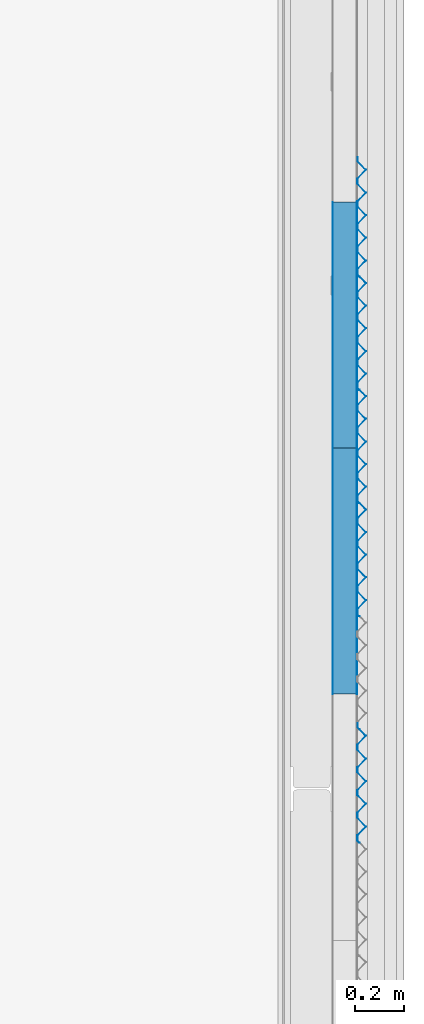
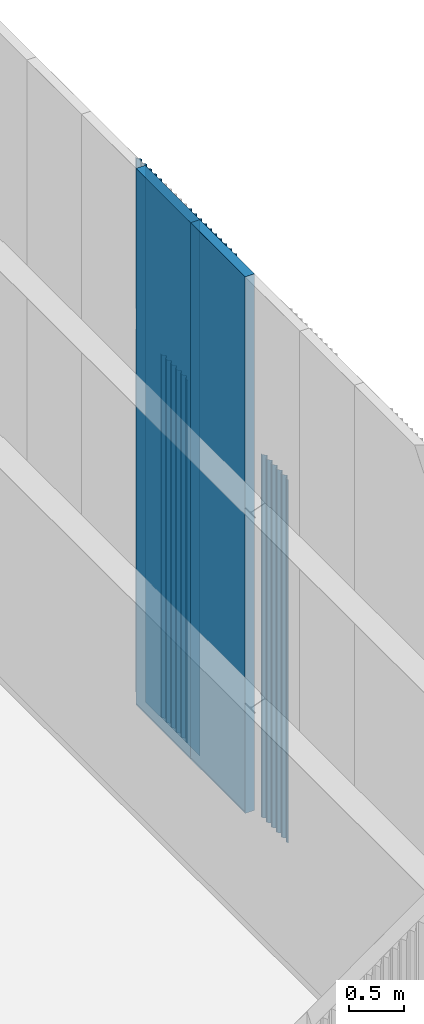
# One storey, part 104 of 338: 12 building element parts, 6 elements without a shape of their own.
"""IFC2X3 building model written with IfcOpenShell, lengths in millimetres."""

from ifc_helpers import new_model, entity, si_unit, converted_unit, derived_unit, money_unit, direction, frame, origin_with_axes, place, context, subcontext, project, spatial, faceted_brep, material, type_object, element, aggregate, save


model = new_model("IFC2X3")

# Units and contexts
model_context = context("Model", 3, precision=0.01, world=origin_with_axes(), true_north=direction((0.0, 1.0)))
plan_context = context("Plan", 3, precision=0.01, world=origin_with_axes(), true_north=direction((0.0, 1.0)))
body_context = subcontext(model_context, "Body", "Model", "MODEL_VIEW")
ifc_project = project(units=[si_unit("LENGTHUNIT", "METRE", prefix="MILLI"), si_unit("AREAUNIT", "SQUARE_METRE"), si_unit("VOLUMEUNIT", "CUBIC_METRE"), converted_unit("PLANEANGLEUNIT", "DEGREE", entity("IfcPlaneAngleMeasure", 0.0174532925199), si_unit("PLANEANGLEUNIT", "RADIAN"), dimensions=[0, 0, 0, 0, 0, 0, 0]), money_unit("EUR"), converted_unit("TIMEUNIT", "Year", entity("IfcTimeMeasure", 31556926.0), si_unit("TIMEUNIT", "SECOND"), dimensions=[0, 0, 1, 0, 0, 0, 0]), si_unit("MASSUNIT", "GRAM", prefix="KILO"), si_unit("THERMODYNAMICTEMPERATUREUNIT", "DEGREE_CELSIUS"), si_unit("LUMINOUSINTENSITYUNIT", "LUMEN"), si_unit("ENERGYUNIT", "JOULE", prefix="MEGA"), derived_unit("THERMALCONDUCTANCEUNIT", [(si_unit("POWERUNIT", "WATT"), 1), (si_unit("LENGTHUNIT", "METRE"), -1), (si_unit("THERMODYNAMICTEMPERATUREUNIT", "KELVIN"), -1)]), derived_unit("SPECIFICHEATCAPACITYUNIT", [(si_unit("ENERGYUNIT", "JOULE"), 1), (si_unit("MASSUNIT", "GRAM", prefix="KILO"), -1), (si_unit("THERMODYNAMICTEMPERATUREUNIT", "KELVIN"), -1)]), derived_unit("MASSDENSITYUNIT", [(si_unit("MASSUNIT", "GRAM", prefix="KILO"), 1), (si_unit("VOLUMEUNIT", "CUBIC_METRE"), -1)])], contexts=[model_context, plan_context])

# Site, building, storey
site_placement = place(None, origin_with_axes())
site = spatial("IfcSite", under=ifc_project, at=site_placement, Name="Fortuinstraat Woensdrecht", CompositionType="ELEMENT")
building_placement = place(site_placement, origin_with_axes())
building = spatial("IfcBuilding", under=site, at=building_placement, Name="IKC Fortuna", CompositionType="ELEMENT")
storey_placement = place(building_placement, origin_with_axes())
storey = spatial("IfcBuildingStorey", under=building, at=storey_placement, Name="00 begane grond", CompositionType="ELEMENT", Elevation=0.0)

# Wall, building element parts
wall_type = type_object("IfcWallType", Name="21 sandwich 100", PredefinedType="NOTDEFINED")
wall_1_placement = place(storey_placement, frame((59433.4270571, 28181.3126832, 1000.0), z_axis=(0.0, 0.0, 1.0), x_axis=(0.0, -1.0, 0.0)))
wall_1 = element("IfcWall", 1, at=wall_1_placement, inside=storey, type_object=wall_type, Name="21_Wand_sandwichplaat")
ifc_material_1 = material(Name="Metaal - Aluminium")
building_element_part_1_placement = place(wall_1_placement, origin_with_axes())
building_element_part_1 = element("IfcBuildingElementPart", 2, at=building_element_part_1_placement, material=ifc_material_1, Name="Metaal - Aluminium", context=body_context, shape_type="Brep", body=[
    faceted_brep([(0.0, 99.0, 6000.0), (1000.0, 99.0, 6000.0), (1000.0, 100.0, 6000.0), (0.0, 100.0, 6000.0), (0.0, 99.0, 0.0), (1000.0, 99.0, 0.0), (1000.0, 100.0, 0.0), (0.0, 100.0, 0.0)], [[[0, 1, 2, 3]], [[4, 5, 1, 0]], [[2, 1, 5, 6]], [[3, 2, 6, 7]], [[4, 0, 3, 7]], [[7, 6, 5, 4]]]),
])
ifc_material_2 = material(Name="Isolatie - Kunststof hard")
building_element_part_2_placement = place(wall_1_placement, origin_with_axes())
building_element_part_2 = element("IfcBuildingElementPart", 3, at=building_element_part_2_placement, material=ifc_material_2, Name="Isolatie - Kunststof hard", context=body_context, shape_type="Brep", body=[
    faceted_brep([(1000.0, 0.999999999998, 6000.0), (1000.0, 99.0, 6000.0), (0.0, 99.0, 6000.0), (0.0, 0.999999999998, 6000.0), (1000.0, 0.999999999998, 0.0), (1000.0, 99.0, 0.0), (0.0, 99.0, 0.0), (0.0, 0.999999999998, 0.0)], [[[0, 1, 2, 3]], [[0, 4, 5, 1]], [[1, 5, 6, 2]], [[3, 2, 6, 7]], [[4, 0, 3, 7]], [[5, 4, 7, 6]]]),
])
building_element_part_3_placement = place(wall_1_placement, origin_with_axes())
building_element_part_3 = element("IfcBuildingElementPart", 4, at=building_element_part_3_placement, material=ifc_material_1, Name="Metaal - Aluminium", context=body_context, shape_type="Brep", body=[
    faceted_brep([(1000.0, 0.0, 6000.0), (0.0, 0.0, 6000.0), (0.0, 7.91899879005e-08, 18.9263474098), (1000.0, 7.65751906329e-08, 18.9263474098), (1000.0, 0.999999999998, 6000.0), (0.0, 0.999999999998, 6000.0), (0.0, 0.999999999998, 18.9261694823), (1000.0, 0.999999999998, 18.9261694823)], [[[0, 1, 2, 3]], [[1, 0, 4, 5]], [[2, 1, 5, 6]], [[3, 2, 6, 7]], [[0, 3, 7, 4]], [[5, 4, 7, 6]]]),
])
aggregate(wall_1, [building_element_part_1, building_element_part_2, building_element_part_3])

wall_2_placement = place(storey_placement, frame((59433.4270571, 27181.3126832, 1000.0), z_axis=(0.0, 0.0, 1.0), x_axis=(0.0, -1.0, 0.0)))
wall_2 = element("IfcWall", 5, at=wall_2_placement, inside=storey, type_object=wall_type, Name="21_Wand_sandwichplaat")
building_element_part_4_placement = place(wall_2_placement, origin_with_axes())
building_element_part_4 = element("IfcBuildingElementPart", 6, at=building_element_part_4_placement, material=ifc_material_1, Name="Metaal - Aluminium", context=body_context, shape_type="Brep", body=[
    faceted_brep([(0.0, 99.0, 5999.99999804), (1000.0, 99.0, 5999.99999804), (1000.0, 100.0, 5999.99999804), (0.0, 100.0, 5999.99999804), (0.0, 99.0, 0.0), (1000.0, 99.0, 0.0), (1000.0, 100.0, 0.0), (0.0, 100.0, 0.0)], [[[0, 1, 2, 3]], [[4, 5, 1, 0]], [[2, 1, 5, 6]], [[3, 2, 6, 7]], [[4, 0, 3, 7]], [[7, 6, 5, 4]]]),
])
building_element_part_5_placement = place(wall_2_placement, origin_with_axes())
building_element_part_5 = element("IfcBuildingElementPart", 7, at=building_element_part_5_placement, material=ifc_material_2, Name="Isolatie - Kunststof hard", context=body_context, shape_type="Brep", body=[
    faceted_brep([(1000.0, 0.999999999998, 5999.99999804), (1000.0, 99.0, 5999.99999804), (0.0, 99.0, 5999.99999804), (0.0, 0.999999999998, 5999.99999804), (1000.0, 0.999999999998, 0.0), (1000.0, 99.0, 0.0), (0.0, 99.0, 0.0), (0.0, 0.999999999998, 0.0)], [[[0, 1, 2, 3]], [[0, 4, 5, 1]], [[1, 5, 6, 2]], [[3, 2, 6, 7]], [[4, 0, 3, 7]], [[5, 4, 7, 6]]]),
])
building_element_part_6_placement = place(wall_2_placement, origin_with_axes())
building_element_part_6 = element("IfcBuildingElementPart", 8, at=building_element_part_6_placement, material=ifc_material_1, Name="Metaal - Aluminium", context=body_context, shape_type="Brep", body=[
    faceted_brep([(1000.0, 0.0, 5999.99999804), (0.0, 0.0, 5999.99999804), (0.0, 7.65680852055e-08, 18.9263474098), (1000.0, 7.39461825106e-08, 18.9263474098), (1000.0, 0.999999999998, 5999.99999804), (0.0, 0.999999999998, 5999.99999804), (0.0, 0.999999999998, 18.9261694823), (1000.0, 0.999999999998, 18.9261694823)], [[[0, 1, 2, 3]], [[1, 0, 4, 5]], [[2, 1, 5, 6]], [[3, 2, 6, 7]], [[0, 3, 7, 4]], [[5, 4, 7, 6]]]),
])
aggregate(wall_2, [building_element_part_4, building_element_part_5, building_element_part_6])

# Proxy, building element parts
building_element_proxy_type = type_object("IfcBuildingElementProxyType", Name="21 Sandwich custom pyramid 946 x 37", PredefinedType="NOTDEFINED")
proxy_1_placement = place(storey_placement, frame((59533.4270571, 28363.6060069, 1000.0), z_axis=(0.0, 0.0, 1.0), x_axis=(0.0, -1.0, 0.0)))
proxy_1 = element("IfcBuildingElementProxy", 9, at=proxy_1_placement, inside=storey, type_object=building_element_proxy_type, Name="41_Generieke bekleding & afwerking buiten_sandwich custom pyramid")
building_element_part_7_placement = place(proxy_1_placement, origin_with_axes())
building_element_part_7 = element("IfcBuildingElementPart", 10, at=building_element_part_7_placement, material=ifc_material_1, Name="Metaal - Aluminium", context=body_context, shape_type="Brep", body=[
    faceted_brep([(0.0, 2.39999686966, 0.0), (0.0, 1.20000548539, 0.0), (0.0, 1.20000548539, 4060.85690076), (0.0, 2.39999686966, 4060.85690076), (16.7470988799, 2.39999686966, 0.0), (52.0000026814, 36.6736482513, 0.0), (88.487191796, 1.20000548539, 0.0), (107.51282048, 1.20000548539, 0.0), (143.999995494, 36.6736482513, 0.0), (180.487184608, 1.20000548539, 0.0), (199.512813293, 1.20000548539, 0.0), (236.000002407, 36.6736482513, 0.0), (272.487191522, 1.20000548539, 0.0), (291.512820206, 1.20000548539, 0.0), (327.99999522, 36.6736482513, 0.0), (364.487184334, 1.20000548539, 0.0), (383.512813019, 1.20000548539, 0.0), (420.000002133, 36.6736482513, 0.0), (456.487191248, 1.20000548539, 0.0), (460.000006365, 1.20000548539, 0.0), (477.23428491, 1.20000548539, 0.0), (485.472879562, 9.20975302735, 0.0), (486.309372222, 8.34935896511, 0.0), (477.721464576, 0.0, 0.0), (455.999997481, 0.0, 0.0), (420.000002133, 35.0000001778, 0.0), (384.000006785, 0.0, 0.0), (364.000004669, 0.0, 0.0), (327.99999522, 35.0000001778, 0.0), (291.999999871, 0.0, 0.0), (271.999997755, 0.0, 0.0), (236.000002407, 35.0000001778, 0.0), (199.999992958, 0.0, 0.0), (180.000004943, 0.0, 0.0), (143.999995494, 35.0000001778, 0.0), (108.000000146, 0.0, 0.0), (87.9999980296, 0.0, 0.0), (52.0000026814, 35.0000001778, 0.0), (17.2342926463, 1.20000548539, 0.0), (17.2342926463, 1.20000548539, 4060.85690076), (52.0000026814, 35.0000001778, 4060.85690076), (87.9999980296, 0.0, 4060.85690076), (108.000000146, 0.0, 4060.85690076), (143.999995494, 35.0000001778, 4060.85690076), (180.000004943, 0.0, 4060.85690076), (199.999992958, 0.0, 4060.85690076), (236.000002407, 35.0000001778, 4060.85690076), (271.999997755, 0.0, 4060.85690076), (291.999999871, 0.0, 4060.85690076), (327.99999522, 35.0000001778, 4060.85690076), (364.000004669, 0.0, 4060.85690076), (384.000006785, 0.0, 4060.85690076), (420.000002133, 35.0000001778, 4060.85690076), (455.999997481, 0.0, 4060.85690076), (477.721464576, 0.0, 4060.85690076), (486.309372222, 8.34935896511, 4060.85690076), (485.472879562, 9.20975302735, 4060.85690076), (477.23428491, 1.20000548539, 4060.85690076), (460.000006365, 1.20000548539, 4060.85690076), (456.487191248, 1.20000548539, 4060.85690076), (420.000002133, 36.6736482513, 4060.85690076), (383.512813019, 1.20000548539, 4060.85690076), (364.487184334, 1.20000548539, 4060.85690076), (327.99999522, 36.6736482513, 4060.85690076), (291.512820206, 1.20000548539, 4060.85690076), (272.487191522, 1.20000548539, 4060.85690076), (236.000002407, 36.6736482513, 4060.85690076), (199.512813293, 1.20000548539, 4060.85690076), (180.487184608, 1.20000548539, 4060.85690076), (143.999995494, 36.6736482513, 4060.85690076), (107.51282048, 1.20000548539, 4060.85690076), (88.487191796, 1.20000548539, 4060.85690076), (52.0000026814, 36.6736482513, 4060.85690076), (16.7470988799, 2.39999686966, 4060.85690076)], [[[0, 1, 2, 3]], [[0, 4, 5, 6, 7, 8, 9, 10, 11, 12, 13, 14, 15, 16, 17, 18, 19, 20, 21, 22, 23, 24, 25, 26, 27, 28, 29, 30, 31, 32, 33, 34, 35, 36, 37, 38, 1]], [[1, 38, 39, 2]], [[3, 2, 39, 40, 41, 42, 43, 44, 45, 46, 47, 48, 49, 50, 51, 52, 53, 54, 55, 56, 57, 58, 59, 60, 61, 62, 63, 64, 65, 66, 67, 68, 69, 70, 71, 72, 73]], [[4, 0, 3, 73]], [[5, 4, 73, 72]], [[6, 5, 72, 71]], [[7, 6, 71, 70]], [[8, 7, 70, 69]], [[9, 8, 69, 68]], [[10, 9, 68, 67]], [[11, 10, 67, 66]], [[12, 11, 66, 65]], [[13, 12, 65, 64]], [[14, 13, 64, 63]], [[15, 14, 63, 62]], [[16, 15, 62, 61]], [[17, 16, 61, 60]], [[18, 17, 60, 59]], [[19, 18, 59, 58]], [[20, 19, 58, 57]], [[21, 20, 57, 56]], [[22, 21, 56, 55]], [[23, 22, 55, 54]], [[24, 23, 54, 53]], [[25, 24, 53, 52]], [[26, 25, 52, 51]], [[27, 26, 51, 50]], [[28, 27, 50, 49]], [[29, 28, 49, 48]], [[30, 29, 48, 47]], [[31, 30, 47, 46]], [[32, 31, 46, 45]], [[33, 32, 45, 44]], [[34, 33, 44, 43]], [[35, 34, 43, 42]], [[36, 35, 42, 41]], [[37, 36, 41, 40]], [[38, 37, 40, 39]]]),
])
building_element_part_8_placement = place(proxy_1_placement, origin_with_axes())
building_element_part_8 = element("IfcBuildingElementPart", 11, at=building_element_part_8_placement, material=ifc_material_1, Name="Metaal - Aluminium", context=body_context, shape_type="Brep", body=[
    faceted_brep([(460.0, 1.2, 0.0), (477.234285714, 1.2, 0.0), (477.234285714, 1.2, 4060.85690076), (460.0, 1.2, 4060.85690076), (460.0, 2.4, 0.0), (476.747100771, 2.4, 0.0), (512.0, 36.6736520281, 0.0), (548.487184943, 1.2, 0.0), (567.512815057, 1.2, 0.0), (604.0, 36.6736520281, 0.0), (640.487184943, 1.2, 0.0), (659.512815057, 1.2, 0.0), (696.0, 36.6736520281, 0.0), (732.487184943, 1.2, 0.0), (751.512815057, 1.2, 0.0), (788.0, 36.6736520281, 0.0), (824.487184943, 1.2, 0.0), (843.512815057, 1.2, 0.0), (880.0, 36.6736520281, 0.0), (916.487184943, 1.2, 0.0), (937.234285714, 1.2, 0.0), (945.472884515, 9.20974883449, 0.0), (946.309378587, 8.34935493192, 0.0), (937.721470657, 0.0, 0.0), (916.0, 0.0, 0.0), (880.0, 35.0, 0.0), (844.0, 0.0, 0.0), (824.0, 0.0, 0.0), (788.0, 35.0, 0.0), (752.0, 0.0, 0.0), (732.0, 0.0, 0.0), (696.0, 35.0, 0.0), (660.0, 0.0, 0.0), (640.0, 0.0, 0.0), (604.0, 35.0, 0.0), (568.0, 0.0, 0.0), (548.0, 0.0, 0.0), (512.0, 35.0, 0.0), (485.472879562, 9.20975302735, 0.0), (485.472879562, 9.20975302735, 4060.85690076), (512.0, 35.0, 4060.85690076), (548.0, 0.0, 4060.85690076), (568.0, 0.0, 4060.85690076), (604.0, 35.0, 4060.85690076), (640.0, 0.0, 4060.85690076), (660.0, 0.0, 4060.85690076), (696.0, 35.0, 4060.85690076), (732.0, 0.0, 4060.85690076), (752.0, 0.0, 4060.85690076), (788.0, 35.0, 4060.85690076), (824.0, 0.0, 4060.85690076), (844.0, 0.0, 4060.85690076), (880.0, 35.0, 4060.85690076), (916.0, 0.0, 4060.85690076), (937.721470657, 0.0, 4060.85690076), (946.309378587, 8.34935493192, 4060.85690076), (945.472884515, 9.20974883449, 4060.85690076), (937.234285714, 1.2, 4060.85690076), (916.487184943, 1.2, 4060.85690076), (880.0, 36.6736520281, 4060.85690076), (843.512815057, 1.2, 4060.85690076), (824.487184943, 1.2, 4060.85690076), (788.0, 36.6736520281, 4060.85690076), (751.512815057, 1.2, 4060.85690076), (732.487184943, 1.2, 4060.85690076), (696.0, 36.6736520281, 4060.85690076), (659.512815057, 1.2, 4060.85690076), (640.487184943, 1.2, 4060.85690076), (604.0, 36.6736520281, 4060.85690076), (567.512815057, 1.2, 4060.85690076), (548.487184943, 1.2, 4060.85690076), (512.0, 36.6736520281, 4060.85690076), (476.747100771, 2.4, 4060.85690076), (460.0, 2.4, 4060.85690076)], [[[0, 1, 2, 3]], [[0, 4, 5, 6, 7, 8, 9, 10, 11, 12, 13, 14, 15, 16, 17, 18, 19, 20, 21, 22, 23, 24, 25, 26, 27, 28, 29, 30, 31, 32, 33, 34, 35, 36, 37, 38, 1]], [[1, 38, 39, 2]], [[3, 2, 39, 40, 41, 42, 43, 44, 45, 46, 47, 48, 49, 50, 51, 52, 53, 54, 55, 56, 57, 58, 59, 60, 61, 62, 63, 64, 65, 66, 67, 68, 69, 70, 71, 72, 73]], [[4, 0, 3, 73]], [[5, 4, 73, 72]], [[6, 5, 72, 71]], [[7, 6, 71, 70]], [[8, 7, 70, 69]], [[9, 8, 69, 68]], [[10, 9, 68, 67]], [[11, 10, 67, 66]], [[12, 11, 66, 65]], [[13, 12, 65, 64]], [[14, 13, 64, 63]], [[15, 14, 63, 62]], [[16, 15, 62, 61]], [[17, 16, 61, 60]], [[18, 17, 60, 59]], [[19, 18, 59, 58]], [[20, 19, 58, 57]], [[21, 20, 57, 56]], [[22, 21, 56, 55]], [[23, 22, 55, 54]], [[24, 23, 54, 53]], [[25, 24, 53, 52]], [[26, 25, 52, 51]], [[27, 26, 51, 50]], [[28, 27, 50, 49]], [[29, 28, 49, 48]], [[30, 29, 48, 47]], [[31, 30, 47, 46]], [[32, 31, 46, 45]], [[33, 32, 45, 44]], [[34, 33, 44, 43]], [[35, 34, 43, 42]], [[36, 35, 42, 41]], [[37, 36, 41, 40]], [[38, 37, 40, 39]]]),
])
aggregate(proxy_1, [building_element_part_7, building_element_part_8])

# Proxy, building element part
proxy_2_placement = place(storey_placement, frame((59533.4270571, 26523.6060069, 1000.0), z_axis=(0.0, 0.0, 1.0), x_axis=(0.0, -1.0, 0.0)))
proxy_2 = element("IfcBuildingElementProxy", 12, at=proxy_2_placement, inside=storey, type_object=building_element_proxy_type, Name="41_Generieke bekleding & afwerking buiten_sandwich custom pyramid")
building_element_part_9_placement = place(proxy_2_placement, origin_with_axes())
building_element_part_9 = element("IfcBuildingElementPart", 13, at=building_element_part_9_placement, material=ifc_material_1, Name="Metaal - Aluminium", context=body_context, shape_type="Brep", body=[
    faceted_brep([(460.0, 1.2, 0.0), (477.234285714, 1.2, 0.0), (477.234285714, 1.2, 4060.85690076), (460.0, 1.2, 4060.85690076), (460.0, 2.4, 0.0), (476.747100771, 2.4, 0.0), (512.0, 36.6736520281, 0.0), (548.487184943, 1.2, 0.0), (567.512815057, 1.2, 0.0), (604.0, 36.6736520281, 0.0), (640.487184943, 1.2, 0.0), (659.512815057, 1.2, 0.0), (696.0, 36.6736520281, 0.0), (732.487184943, 1.2, 0.0), (751.512815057, 1.2, 0.0), (788.0, 36.6736520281, 0.0), (824.487184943, 1.2, 0.0), (843.512815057, 1.2, 0.0), (880.0, 36.6736520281, 0.0), (916.487184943, 1.2, 0.0), (937.234285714, 1.2, 0.0), (945.472884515, 9.20974883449, 0.0), (946.309378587, 8.34935493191, 0.0), (937.721470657, 0.0, 0.0), (916.0, 0.0, 0.0), (880.0, 35.0, 0.0), (844.0, 0.0, 0.0), (824.0, 0.0, 0.0), (788.0, 35.0, 0.0), (752.0, 0.0, 0.0), (732.0, 0.0, 0.0), (696.0, 35.0, 0.0), (660.0, 0.0, 0.0), (640.0, 0.0, 0.0), (604.0, 35.0, 0.0), (568.0, 0.0, 0.0), (548.0, 0.0, 0.0), (512.0, 35.0, 0.0), (485.472879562, 9.20975302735, 0.0), (485.472879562, 9.20975302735, 4060.85690076), (512.0, 35.0, 4060.85690076), (548.0, 0.0, 4060.85690076), (568.0, 0.0, 4060.85690076), (604.0, 35.0, 4060.85690076), (640.0, 0.0, 4060.85690076), (660.0, 0.0, 4060.85690076), (696.0, 35.0, 4060.85690076), (732.0, 0.0, 4060.85690076), (752.0, 0.0, 4060.85690076), (788.0, 35.0, 4060.85690076), (824.0, 0.0, 4060.85690076), (844.0, 0.0, 4060.85690076), (880.0, 35.0, 4060.85690076), (916.0, 0.0, 4060.85690076), (937.721470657, 0.0, 4060.85690076), (946.309378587, 8.34935493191, 4060.85690076), (945.472884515, 9.20974883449, 4060.85690076), (937.234285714, 1.2, 4060.85690076), (916.487184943, 1.2, 4060.85690076), (880.0, 36.6736520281, 4060.85690076), (843.512815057, 1.2, 4060.85690076), (824.487184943, 1.2, 4060.85690076), (788.0, 36.6736520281, 4060.85690076), (751.512815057, 1.2, 4060.85690076), (732.487184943, 1.2, 4060.85690076), (696.0, 36.6736520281, 4060.85690076), (659.512815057, 1.2, 4060.85690076), (640.487184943, 1.2, 4060.85690076), (604.0, 36.6736520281, 4060.85690076), (567.512815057, 1.2, 4060.85690076), (548.487184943, 1.2, 4060.85690076), (512.0, 36.6736520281, 4060.85690076), (476.747100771, 2.4, 4060.85690076), (460.0, 2.4, 4060.85690076)], [[[0, 1, 2, 3]], [[0, 4, 5, 6, 7, 8, 9, 10, 11, 12, 13, 14, 15, 16, 17, 18, 19, 20, 21, 22, 23, 24, 25, 26, 27, 28, 29, 30, 31, 32, 33, 34, 35, 36, 37, 38, 1]], [[1, 38, 39, 2]], [[3, 2, 39, 40, 41, 42, 43, 44, 45, 46, 47, 48, 49, 50, 51, 52, 53, 54, 55, 56, 57, 58, 59, 60, 61, 62, 63, 64, 65, 66, 67, 68, 69, 70, 71, 72, 73]], [[4, 0, 3, 73]], [[5, 4, 73, 72]], [[6, 5, 72, 71]], [[7, 6, 71, 70]], [[8, 7, 70, 69]], [[9, 8, 69, 68]], [[10, 9, 68, 67]], [[11, 10, 67, 66]], [[12, 11, 66, 65]], [[13, 12, 65, 64]], [[14, 13, 64, 63]], [[15, 14, 63, 62]], [[16, 15, 62, 61]], [[17, 16, 61, 60]], [[18, 17, 60, 59]], [[19, 18, 59, 58]], [[20, 19, 58, 57]], [[21, 20, 57, 56]], [[22, 21, 56, 55]], [[23, 22, 55, 54]], [[24, 23, 54, 53]], [[25, 24, 53, 52]], [[26, 25, 52, 51]], [[27, 26, 51, 50]], [[28, 27, 50, 49]], [[29, 28, 49, 48]], [[30, 29, 48, 47]], [[31, 30, 47, 46]], [[32, 31, 46, 45]], [[33, 32, 45, 44]], [[34, 33, 44, 43]], [[35, 34, 43, 42]], [[36, 35, 42, 41]], [[37, 36, 41, 40]], [[38, 37, 40, 39]]]),
])
aggregate(proxy_2, [building_element_part_9])

proxy_3_placement = place(storey_placement, frame((59533.4270571, 28363.6060069, 5289.99999237), z_axis=(0.0, 0.0, 1.0), x_axis=(0.0, -1.0, 0.0)))
proxy_3 = element("IfcBuildingElementProxy", 14, at=proxy_3_placement, inside=storey, type_object=building_element_proxy_type, Name="41_Generieke bekleding & afwerking buiten_sandwich custom pyramid")
building_element_part_10_placement = place(proxy_3_placement, origin_with_axes())
building_element_part_10 = element("IfcBuildingElementPart", 15, at=building_element_part_10_placement, material=ifc_material_1, Name="Metaal - Aluminium", context=body_context, shape_type="Brep", body=[
    faceted_brep([(0.0, 2.39999686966, 0.0), (0.0, 1.20000548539, 0.0), (0.0, 1.20000548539, 1690.00000566), (0.0, 2.39999686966, 1690.00000566), (16.7470988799, 2.39999686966, 0.0), (52.0000026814, 36.6736482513, 0.0), (88.487191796, 1.20000548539, 0.0), (107.51282048, 1.20000548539, 0.0), (143.999995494, 36.6736482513, 0.0), (180.487184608, 1.20000548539, 0.0), (199.512813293, 1.20000548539, 0.0), (236.000002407, 36.6736482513, 0.0), (272.487191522, 1.20000548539, 0.0), (291.512820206, 1.20000548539, 0.0), (327.99999522, 36.6736482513, 0.0), (364.487184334, 1.20000548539, 0.0), (383.512813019, 1.20000548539, 0.0), (420.000002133, 36.6736482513, 0.0), (456.487191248, 1.20000548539, 0.0), (460.000006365, 1.20000548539, 0.0), (477.23428491, 1.20000548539, 0.0), (485.472879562, 9.20975302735, 0.0), (486.309372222, 8.34935896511, 0.0), (477.721464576, 0.0, 0.0), (455.999997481, 0.0, 0.0), (420.000002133, 35.0000001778, 0.0), (384.000006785, 0.0, 0.0), (364.000004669, 0.0, 0.0), (327.99999522, 35.0000001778, 0.0), (291.999999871, 0.0, 0.0), (271.999997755, 0.0, 0.0), (236.000002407, 35.0000001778, 0.0), (199.999992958, 0.0, 0.0), (180.000004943, 0.0, 0.0), (143.999995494, 35.0000001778, 0.0), (108.000000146, 0.0, 0.0), (87.9999980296, 0.0, 0.0), (52.0000026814, 35.0000001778, 0.0), (17.2342926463, 1.20000548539, 0.0), (17.2342926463, 1.20000548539, 1690.00000566), (52.0000026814, 35.0000001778, 1690.00000566), (87.9999980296, 0.0, 1690.00000566), (108.000000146, 0.0, 1690.00000566), (143.999995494, 35.0000001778, 1690.00000566), (180.000004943, 0.0, 1690.00000566), (199.999992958, 0.0, 1690.00000566), (236.000002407, 35.0000001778, 1690.00000566), (271.999997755, 0.0, 1690.00000566), (291.999999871, 0.0, 1690.00000566), (327.99999522, 35.0000001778, 1690.00000566), (364.000004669, 0.0, 1690.00000566), (384.000006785, 0.0, 1690.00000566), (420.000002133, 35.0000001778, 1690.00000566), (455.999997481, 0.0, 1690.00000566), (477.721464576, 0.0, 1690.00000566), (486.309372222, 8.34935896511, 1690.00000566), (485.472879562, 9.20975302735, 1690.00000566), (477.23428491, 1.20000548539, 1690.00000566), (460.000006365, 1.20000548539, 1690.00000566), (456.487191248, 1.20000548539, 1690.00000566), (420.000002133, 36.6736482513, 1690.00000566), (383.512813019, 1.20000548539, 1690.00000566), (364.487184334, 1.20000548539, 1690.00000566), (327.99999522, 36.6736482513, 1690.00000566), (291.512820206, 1.20000548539, 1690.00000566), (272.487191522, 1.20000548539, 1690.00000566), (236.000002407, 36.6736482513, 1690.00000566), (199.512813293, 1.20000548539, 1690.00000566), (180.487184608, 1.20000548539, 1690.00000566), (143.999995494, 36.6736482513, 1690.00000566), (107.51282048, 1.20000548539, 1690.00000566), (88.487191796, 1.20000548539, 1690.00000566), (52.0000026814, 36.6736482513, 1690.00000566), (16.7470988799, 2.39999686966, 1690.00000566)], [[[0, 1, 2, 3]], [[0, 4, 5, 6, 7, 8, 9, 10, 11, 12, 13, 14, 15, 16, 17, 18, 19, 20, 21, 22, 23, 24, 25, 26, 27, 28, 29, 30, 31, 32, 33, 34, 35, 36, 37, 38, 1]], [[1, 38, 39, 2]], [[3, 2, 39, 40, 41, 42, 43, 44, 45, 46, 47, 48, 49, 50, 51, 52, 53, 54, 55, 56, 57, 58, 59, 60, 61, 62, 63, 64, 65, 66, 67, 68, 69, 70, 71, 72, 73]], [[4, 0, 3, 73]], [[5, 4, 73, 72]], [[6, 5, 72, 71]], [[7, 6, 71, 70]], [[8, 7, 70, 69]], [[9, 8, 69, 68]], [[10, 9, 68, 67]], [[11, 10, 67, 66]], [[12, 11, 66, 65]], [[13, 12, 65, 64]], [[14, 13, 64, 63]], [[15, 14, 63, 62]], [[16, 15, 62, 61]], [[17, 16, 61, 60]], [[18, 17, 60, 59]], [[19, 18, 59, 58]], [[20, 19, 58, 57]], [[21, 20, 57, 56]], [[22, 21, 56, 55]], [[23, 22, 55, 54]], [[24, 23, 54, 53]], [[25, 24, 53, 52]], [[26, 25, 52, 51]], [[27, 26, 51, 50]], [[28, 27, 50, 49]], [[29, 28, 49, 48]], [[30, 29, 48, 47]], [[31, 30, 47, 46]], [[32, 31, 46, 45]], [[33, 32, 45, 44]], [[34, 33, 44, 43]], [[35, 34, 43, 42]], [[36, 35, 42, 41]], [[37, 36, 41, 40]], [[38, 37, 40, 39]]]),
])
aggregate(proxy_3, [building_element_part_10])

# Proxy, building element parts
proxy_4_placement = place(storey_placement, frame((59533.4270571, 27443.6060069, 5289.99999237), z_axis=(0.0, 0.0, 1.0), x_axis=(0.0, -1.0, 0.0)))
proxy_4 = element("IfcBuildingElementProxy", 16, at=proxy_4_placement, inside=storey, type_object=building_element_proxy_type, Name="41_Generieke bekleding & afwerking buiten_sandwich custom pyramid")
building_element_part_11_placement = place(proxy_4_placement, origin_with_axes())
building_element_part_11 = element("IfcBuildingElementPart", 17, at=building_element_part_11_placement, material=ifc_material_1, Name="Metaal - Aluminium", context=body_context, shape_type="Brep", body=[
    faceted_brep([(0.0, 2.39999686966, 0.0), (0.0, 1.20000548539, 0.0), (0.0, 1.20000548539, 1690.00000566), (0.0, 2.39999686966, 1690.00000566), (16.7470988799, 2.39999686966, 0.0), (52.0000026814, 36.6736482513, 0.0), (88.487191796, 1.20000548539, 0.0), (107.51282048, 1.20000548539, 0.0), (143.999995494, 36.6736482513, 0.0), (180.487184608, 1.20000548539, 0.0), (199.512813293, 1.20000548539, 0.0), (236.000002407, 36.6736482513, 0.0), (272.487191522, 1.20000548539, 0.0), (291.512820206, 1.20000548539, 0.0), (327.99999522, 36.6736482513, 0.0), (364.487184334, 1.20000548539, 0.0), (383.512813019, 1.20000548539, 0.0), (420.000002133, 36.6736482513, 0.0), (456.487191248, 1.20000548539, 0.0), (460.000006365, 1.20000548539, 0.0), (477.23428491, 1.20000548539, 0.0), (485.472879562, 9.20975302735, 0.0), (486.309372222, 8.34935896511, 0.0), (477.721464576, 0.0, 0.0), (455.999997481, 0.0, 0.0), (420.000002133, 35.0000001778, 0.0), (384.000006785, 0.0, 0.0), (364.000004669, 0.0, 0.0), (327.99999522, 35.0000001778, 0.0), (291.999999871, 0.0, 0.0), (271.999997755, 0.0, 0.0), (236.000002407, 35.0000001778, 0.0), (199.999992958, 0.0, 0.0), (180.000004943, 0.0, 0.0), (143.999995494, 35.0000001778, 0.0), (108.000000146, 0.0, 0.0), (87.9999980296, 0.0, 0.0), (52.0000026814, 35.0000001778, 0.0), (17.2342926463, 1.20000548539, 0.0), (17.2342926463, 1.20000548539, 1690.00000566), (52.0000026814, 35.0000001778, 1690.00000566), (87.9999980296, 0.0, 1690.00000566), (108.000000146, 0.0, 1690.00000566), (143.999995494, 35.0000001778, 1690.00000566), (180.000004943, 0.0, 1690.00000566), (199.999992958, 0.0, 1690.00000566), (236.000002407, 35.0000001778, 1690.00000566), (271.999997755, 0.0, 1690.00000566), (291.999999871, 0.0, 1690.00000566), (327.99999522, 35.0000001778, 1690.00000566), (364.000004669, 0.0, 1690.00000566), (384.000006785, 0.0, 1690.00000566), (420.000002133, 35.0000001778, 1690.00000566), (455.999997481, 0.0, 1690.00000566), (477.721464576, 0.0, 1690.00000566), (486.309372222, 8.34935896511, 1690.00000566), (485.472879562, 9.20975302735, 1690.00000566), (477.23428491, 1.20000548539, 1690.00000566), (460.000006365, 1.20000548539, 1690.00000566), (456.487191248, 1.20000548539, 1690.00000566), (420.000002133, 36.6736482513, 1690.00000566), (383.512813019, 1.20000548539, 1690.00000566), (364.487184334, 1.20000548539, 1690.00000566), (327.99999522, 36.6736482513, 1690.00000566), (291.512820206, 1.20000548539, 1690.00000566), (272.487191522, 1.20000548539, 1690.00000566), (236.000002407, 36.6736482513, 1690.00000566), (199.512813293, 1.20000548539, 1690.00000566), (180.487184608, 1.20000548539, 1690.00000566), (143.999995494, 36.6736482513, 1690.00000566), (107.51282048, 1.20000548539, 1690.00000566), (88.487191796, 1.20000548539, 1690.00000566), (52.0000026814, 36.6736482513, 1690.00000566), (16.7470988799, 2.39999686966, 1690.00000566)], [[[0, 1, 2, 3]], [[0, 4, 5, 6, 7, 8, 9, 10, 11, 12, 13, 14, 15, 16, 17, 18, 19, 20, 21, 22, 23, 24, 25, 26, 27, 28, 29, 30, 31, 32, 33, 34, 35, 36, 37, 38, 1]], [[1, 38, 39, 2]], [[3, 2, 39, 40, 41, 42, 43, 44, 45, 46, 47, 48, 49, 50, 51, 52, 53, 54, 55, 56, 57, 58, 59, 60, 61, 62, 63, 64, 65, 66, 67, 68, 69, 70, 71, 72, 73]], [[4, 0, 3, 73]], [[5, 4, 73, 72]], [[6, 5, 72, 71]], [[7, 6, 71, 70]], [[8, 7, 70, 69]], [[9, 8, 69, 68]], [[10, 9, 68, 67]], [[11, 10, 67, 66]], [[12, 11, 66, 65]], [[13, 12, 65, 64]], [[14, 13, 64, 63]], [[15, 14, 63, 62]], [[16, 15, 62, 61]], [[17, 16, 61, 60]], [[18, 17, 60, 59]], [[19, 18, 59, 58]], [[20, 19, 58, 57]], [[21, 20, 57, 56]], [[22, 21, 56, 55]], [[23, 22, 55, 54]], [[24, 23, 54, 53]], [[25, 24, 53, 52]], [[26, 25, 52, 51]], [[27, 26, 51, 50]], [[28, 27, 50, 49]], [[29, 28, 49, 48]], [[30, 29, 48, 47]], [[31, 30, 47, 46]], [[32, 31, 46, 45]], [[33, 32, 45, 44]], [[34, 33, 44, 43]], [[35, 34, 43, 42]], [[36, 35, 42, 41]], [[37, 36, 41, 40]], [[38, 37, 40, 39]]]),
])
building_element_part_12_placement = place(proxy_4_placement, origin_with_axes())
building_element_part_12 = element("IfcBuildingElementPart", 18, at=building_element_part_12_placement, material=ifc_material_1, Name="Metaal - Aluminium", context=body_context, shape_type="Brep", body=[
    faceted_brep([(460.0, 1.2, 0.0), (477.234285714, 1.2, 0.0), (477.234285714, 1.2, 1690.00000566), (460.0, 1.2, 1690.00000566), (460.0, 2.4, 0.0), (476.747100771, 2.4, 0.0), (512.0, 36.6736520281, 0.0), (548.487184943, 1.2, 0.0), (567.512815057, 1.2, 0.0), (604.0, 36.6736520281, 0.0), (640.487184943, 1.2, 0.0), (659.512815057, 1.2, 0.0), (696.0, 36.6736520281, 0.0), (732.487184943, 1.2, 0.0), (751.512815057, 1.2, 0.0), (788.0, 36.6736520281, 0.0), (824.487184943, 1.2, 0.0), (843.512815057, 1.2, 0.0), (880.0, 36.6736520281, 0.0), (916.487184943, 1.2, 0.0), (937.234285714, 1.2, 0.0), (945.472884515, 9.20974883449, 0.0), (946.309378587, 8.34935493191, 0.0), (937.721470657, 0.0, 0.0), (916.0, 0.0, 0.0), (880.0, 35.0, 0.0), (844.0, 0.0, 0.0), (824.0, 0.0, 0.0), (788.0, 35.0, 0.0), (752.0, 0.0, 0.0), (732.0, 0.0, 0.0), (696.0, 35.0, 0.0), (660.0, 0.0, 0.0), (640.0, 0.0, 0.0), (604.0, 35.0, 0.0), (568.0, 0.0, 0.0), (548.0, 0.0, 0.0), (512.0, 35.0, 0.0), (485.472879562, 9.20975302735, 0.0), (485.472879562, 9.20975302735, 1690.00000566), (512.0, 35.0, 1690.00000566), (548.0, 0.0, 1690.00000566), (568.0, 0.0, 1690.00000566), (604.0, 35.0, 1690.00000566), (640.0, 0.0, 1690.00000566), (660.0, 0.0, 1690.00000566), (696.0, 35.0, 1690.00000566), (732.0, 0.0, 1690.00000566), (752.0, 0.0, 1690.00000566), (788.0, 35.0, 1690.00000566), (824.0, 0.0, 1690.00000566), (844.0, 0.0, 1690.00000566), (880.0, 35.0, 1690.00000566), (916.0, 0.0, 1690.00000566), (937.721470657, 0.0, 1690.00000566), (946.309378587, 8.34935493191, 1690.00000566), (945.472884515, 9.20974883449, 1690.00000566), (937.234285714, 1.2, 1690.00000566), (916.487184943, 1.2, 1690.00000566), (880.0, 36.6736520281, 1690.00000566), (843.512815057, 1.2, 1690.00000566), (824.487184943, 1.2, 1690.00000566), (788.0, 36.6736520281, 1690.00000566), (751.512815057, 1.2, 1690.00000566), (732.487184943, 1.2, 1690.00000566), (696.0, 36.6736520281, 1690.00000566), (659.512815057, 1.2, 1690.00000566), (640.487184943, 1.2, 1690.00000566), (604.0, 36.6736520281, 1690.00000566), (567.512815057, 1.2, 1690.00000566), (548.487184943, 1.2, 1690.00000566), (512.0, 36.6736520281, 1690.00000566), (476.747100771, 2.4, 1690.00000566), (460.0, 2.4, 1690.00000566)], [[[0, 1, 2, 3]], [[0, 4, 5, 6, 7, 8, 9, 10, 11, 12, 13, 14, 15, 16, 17, 18, 19, 20, 21, 22, 23, 24, 25, 26, 27, 28, 29, 30, 31, 32, 33, 34, 35, 36, 37, 38, 1]], [[1, 38, 39, 2]], [[3, 2, 39, 40, 41, 42, 43, 44, 45, 46, 47, 48, 49, 50, 51, 52, 53, 54, 55, 56, 57, 58, 59, 60, 61, 62, 63, 64, 65, 66, 67, 68, 69, 70, 71, 72, 73]], [[4, 0, 3, 73]], [[5, 4, 73, 72]], [[6, 5, 72, 71]], [[7, 6, 71, 70]], [[8, 7, 70, 69]], [[9, 8, 69, 68]], [[10, 9, 68, 67]], [[11, 10, 67, 66]], [[12, 11, 66, 65]], [[13, 12, 65, 64]], [[14, 13, 64, 63]], [[15, 14, 63, 62]], [[16, 15, 62, 61]], [[17, 16, 61, 60]], [[18, 17, 60, 59]], [[19, 18, 59, 58]], [[20, 19, 58, 57]], [[21, 20, 57, 56]], [[22, 21, 56, 55]], [[23, 22, 55, 54]], [[24, 23, 54, 53]], [[25, 24, 53, 52]], [[26, 25, 52, 51]], [[27, 26, 51, 50]], [[28, 27, 50, 49]], [[29, 28, 49, 48]], [[30, 29, 48, 47]], [[31, 30, 47, 46]], [[32, 31, 46, 45]], [[33, 32, 45, 44]], [[34, 33, 44, 43]], [[35, 34, 43, 42]], [[36, 35, 42, 41]], [[37, 36, 41, 40]], [[38, 37, 40, 39]]]),
])
aggregate(proxy_4, [building_element_part_11, building_element_part_12])

save(model, "model.ifc")
